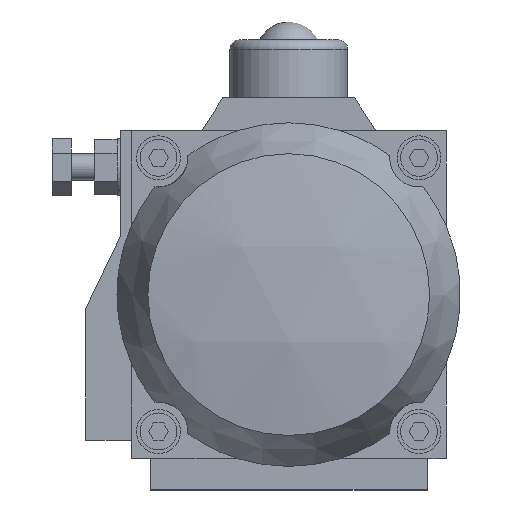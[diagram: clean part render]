
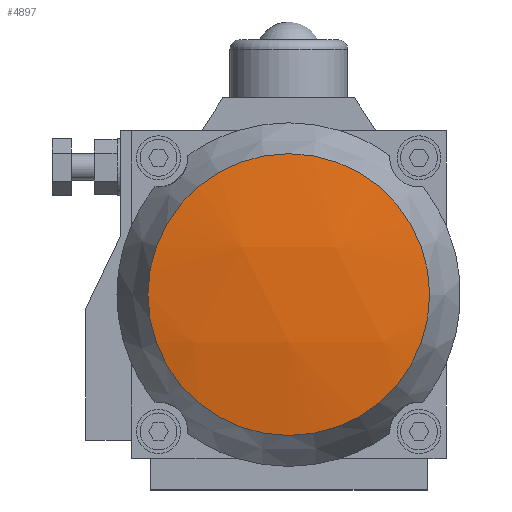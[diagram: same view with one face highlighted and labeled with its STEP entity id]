
A CAD part, front view. The second image highlights one B-rep face of the part: STEP entity #4897.
In plain terms, the highlighted spherical face has radius 236.456 mm.
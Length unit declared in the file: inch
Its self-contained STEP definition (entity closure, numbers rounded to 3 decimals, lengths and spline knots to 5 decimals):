
#4849=CARTESIAN_POINT('',(0.85,-5.18,1.99));
#4850=VERTEX_POINT('',#4849);
#4851=CARTESIAN_POINT('',(2.775,-5.18,1.99));
#4852=DIRECTION('',(0.0,-1.0,0.0));
#4853=DIRECTION('',(-1.0,0.0,0.0));
#4854=AXIS2_PLACEMENT_3D('',#4851,#4852,#4853);
#4855=CIRCLE('',#4854,1.925);
#4856=EDGE_CURVE('',#4850,#4850,#4855,.T.);
#4889=CARTESIAN_POINT('',(2.775,3.92809,1.99));
#4890=DIRECTION('',(0.0,0.0,1.0));
#4891=DIRECTION('',(1.0,0.0,0.0));
#4892=AXIS2_PLACEMENT_3D('',#4889,#4890,#4891);
#4893=SPHERICAL_SURFACE('',#4892,9.30929);
#4894=ORIENTED_EDGE('',*,*,#4856,.T.);
#4895=EDGE_LOOP('',(#4894));
#4896=FACE_OUTER_BOUND('',#4895,.T.);
#4897=ADVANCED_FACE('',(#4896),#4893,.T.);
